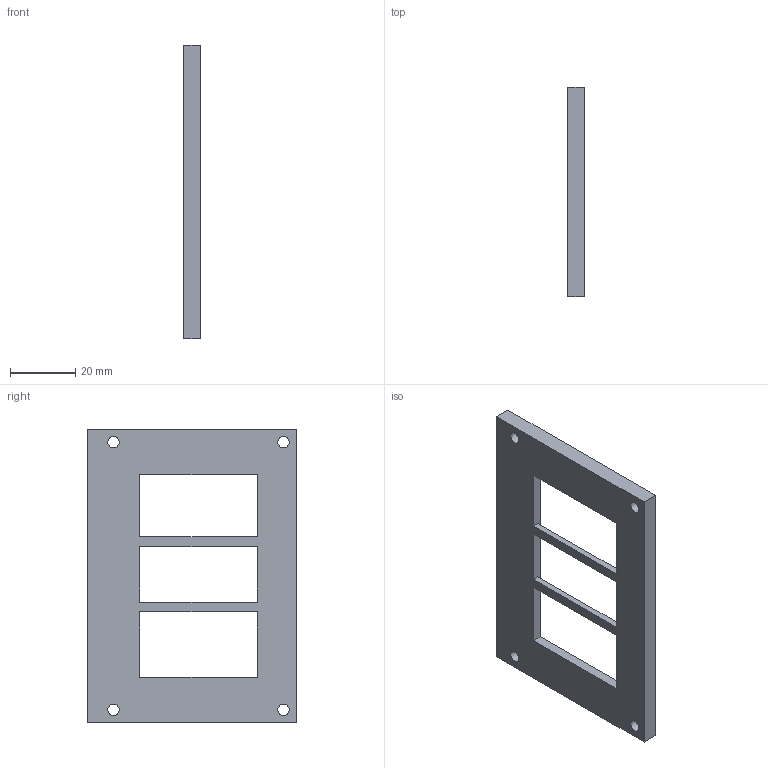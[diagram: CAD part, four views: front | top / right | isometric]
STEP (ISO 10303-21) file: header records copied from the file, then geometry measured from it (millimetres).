
FILE_DESCRIPTION(('FreeCAD Model'),'2;1');
FILE_NAME('Open CASCADE Shape Model','2026-10-19T19:41:49',('FreeCAD'),( 'FreeCAD'),'Open CASCADE STEP processor 7.8','FreeCAD','Unknown');
FILE_SCHEMA(('AUTOMOTIVE_DESIGN { 1 0 10303 214 1 1 1 1 }'));
Length unit declared in the file: millimetre
Products named in the file (1): Open CASCADE STEP translator 7.8 15
Bounding box: 5 x 64 x 90 mm (x, y, z)
Volume: 16183.6 mm3; surface area: 10478.9 mm2
Topology: 1 solids, 1 shells, 25 faces, 72 edges, 48 vertices
Faces by surface type: plane 21, cylinder 4
Full cylindrical faces by diameter (mm): 3.5 x4
Entity records: 852 total; most frequent: CARTESIAN_POINT 146, ORIENTED_EDGE 144, DIRECTION 132, EDGE_CURVE 72, LINE 64, VECTOR 64, VERTEX_POINT 48, FACE_BOUND 38
